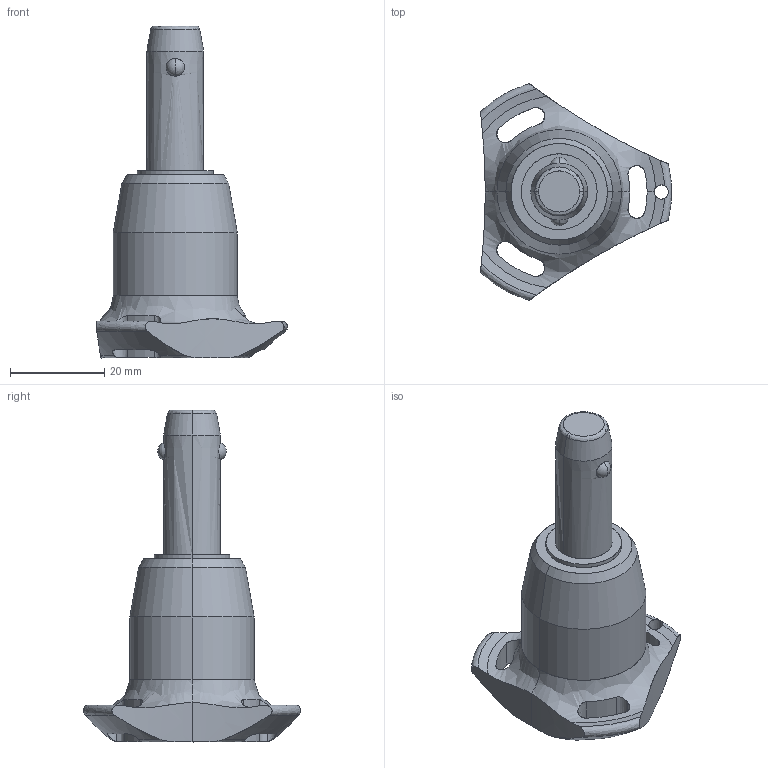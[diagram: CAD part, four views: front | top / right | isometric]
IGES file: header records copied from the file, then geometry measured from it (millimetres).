
Start section: SolidWorks IGES file using analytic representation for surfaces
Global section: file name: C:\Users\ianosborn\Desktop\QR1724_v2\QR1724_v2_20251112_IGES\QR1724.M12-020-S.igs; native system: SolidWorks 2019; preprocessor: SolidWorks 2019; author: IanOsborn; date: 251112.125634; units: millimetre
Bounding box: 40.5 x 45.88 x 70.3 mm (x, y, z)
Surface area: 7091.6 mm2 (no closed solid volume)
Topology: 0 solids, 0 shells, 65 faces, 1363 edges, 1359 vertices
Faces by surface type: revolution 50, bspline 15
